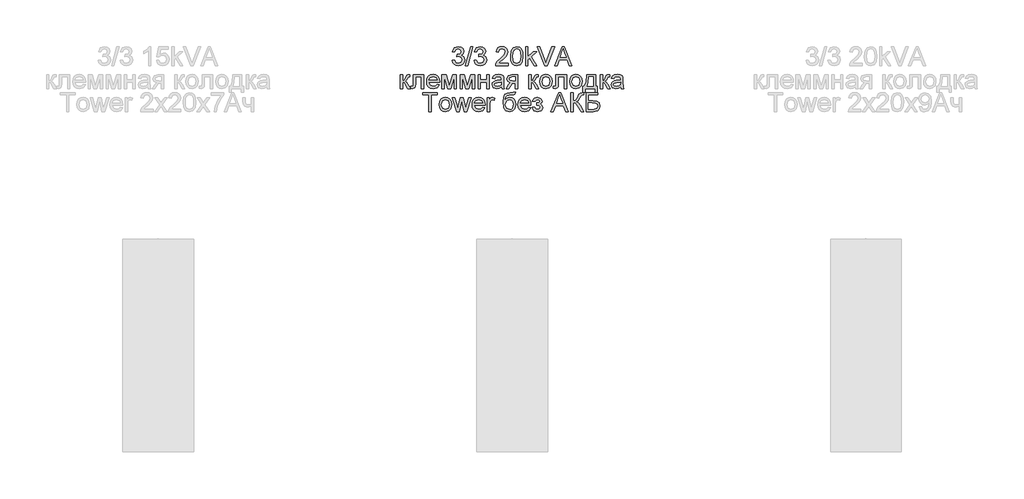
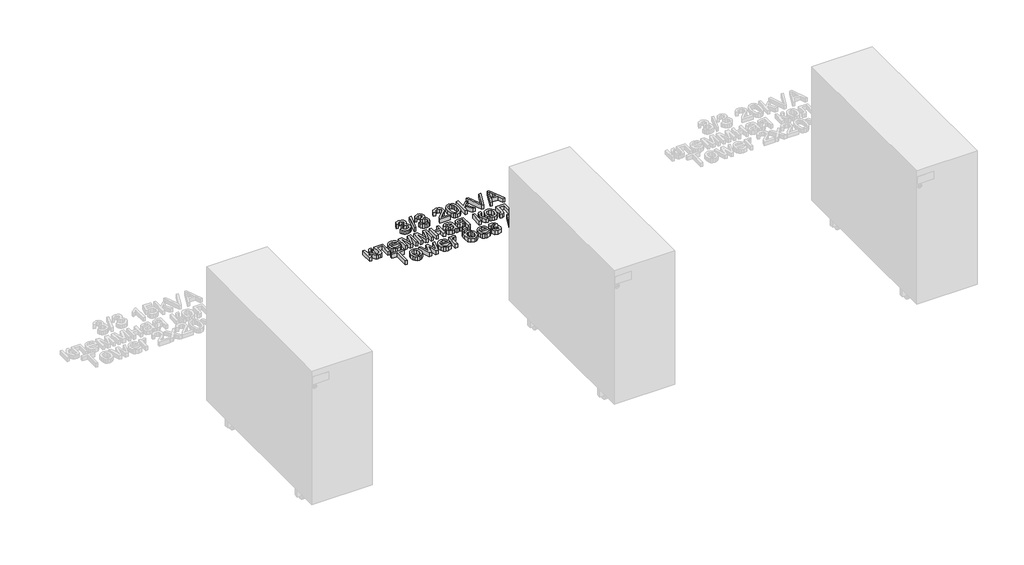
# One storey, part 29 of 74: 1 proxy.
"""IFC4 building model written with IfcOpenShell, lengths in millimetres."""

from ifc_helpers import new_model, si_unit, origin, origin_with_axes, place, context, project, spatial, polyline, outline, extrude, element, save

model = new_model("IFC4")

# Units and contexts
model_context = context("Model", 3, world=origin())
ifc_project = project(units=[si_unit("LENGTHUNIT", "METRE", prefix="MILLI")], contexts=[model_context])

# Site, building, storey
site = spatial("IfcSite", under=ifc_project)
building = spatial("IfcBuilding", under=site)
storey = spatial("IfcBuildingStorey", under=building, Name="Этаж 01", Elevation=0.0)

# Proxy
placement = place(None, origin())
element("IfcBuildingElementProxy", 1, Name="80 мм Arial", ObjectType="80 мм Arial", at=placement, inside=storey, context=model_context, shape_type="SweptSolid", body=[
    extrude(outline(polyline([(16098.3137414, -18752.4422861), (16108.3593724, -18751.1865822), (16113.9021278, -18761.7619633), (16124.2714949, -18764.9993249), (16136.475367, -18760.5455002), (16141.0076732, -18749.5188505), (16136.5146077, -18739.129863), (16125.0955506, -18735.0193948), (16118.0518367, -18736.1181357), (16119.1701979, -18726.0725047), (16120.7790685, -18726.1902269), (16132.1785053, -18723.3060321), (16137.2405615, -18714.4376235), (16133.5715518, -18706.5796641), (16124.114532, -18703.4698349), (16114.5397899, -18706.6090946), (16109.6150762, -18716.0268737), (16099.5694452, -18714.7711698), (16107.7903816, -18699.0160102), (16123.7613652, -18693.4242039), (16135.8769456, -18696.1808663), (16144.3529468, -18703.7150896), (16147.2861926, -18713.8490123), (16144.5000996, -18723.1098284), (16136.2595429, -18729.7611348), (16147.2077111, -18736.6282654), (16151.0533042, -18749.6954339), (16149.1305076, -18759.4860001), (16143.3621179, -18767.6676956), (16134.6555774, -18773.2006408), (16123.9183282, -18775.0449559), (16114.2062435, -18773.470421), (16106.2992332, -18768.7468161), (16100.8006236, -18761.5216138), (16098.3137414, -18752.4422861)])), origin_with_axes(), (0.0, 0.0, 1.0), 20.0),
    extrude(outline(polyline([(16154.8204158, -18773.789252), (16177.4230856, -18693.4242039), (16186.487698, -18693.4242039), (16163.8850282, -18773.789252), (16154.8204158, -18773.789252)])), origin_with_axes(), (0.0, 0.0, 1.0), 20.0),
    extrude(outline(polyline([(16191.2358282, -18752.4422861), (16201.2814593, -18751.1865822), (16206.8242147, -18761.7619633), (16217.1935818, -18764.9993249), (16229.3974539, -18760.5455002), (16233.9297601, -18749.5188505), (16229.4366946, -18739.129863), (16218.0176375, -18735.0193948), (16210.9739236, -18736.1181357), (16212.0922848, -18726.0725047), (16213.7011554, -18726.1902269), (16225.1005922, -18723.3060321), (16230.1626484, -18714.4376235), (16226.4936387, -18706.5796641), (16217.0366188, -18703.4698349), (16207.4618768, -18706.6090946), (16202.5371631, -18716.0268737), (16192.4915321, -18714.7711698), (16200.7124684, -18699.0160102), (16216.6834521, -18693.4242039), (16228.7990325, -18696.1808663), (16237.2750337, -18703.7150896), (16240.2082794, -18713.8490123), (16237.4221865, -18723.1098284), (16229.1816298, -18729.7611348), (16240.129798, -18736.6282654), (16243.9753911, -18749.6954339), (16242.0525945, -18759.4860001), (16236.2842048, -18767.6676956), (16227.5776643, -18773.2006408), (16216.8404151, -18775.0449559), (16207.1283304, -18773.470421), (16199.2213201, -18768.7468161), (16193.7227105, -18761.5216138), (16191.2358282, -18752.4422861)])), origin_with_axes(), (0.0, 0.0, 1.0), 20.0),
    extrude(outline(polyline([(16335.6417741, -18763.743621), (16335.6417741, -18773.789252), (16282.9022113, -18773.789252), (16283.9813318, -18766.8632603), (16290.0832678, -18756.1995876), (16302.6599269, -18744.5548961), (16320.0043367, -18727.8187179), (16324.3404392, -18716.4389015), (16320.2495914, -18707.2271364), (16309.5662983, -18703.4698349), (16298.4317365, -18707.1388447), (16294.2035461, -18717.2825776), (16284.1579151, -18716.0268737), (16286.5932939, -18706.3098839), (16291.8589116, -18699.212214), (16299.6800828, -18694.8712064), (16309.7821224, -18693.4242039), (16319.9577384, -18695.0330745), (16327.7641943, -18699.8596863), (16332.7306012, -18707.0701734), (16334.3860702, -18715.83067), (16332.6006163, -18725.3563611), (16326.6654534, -18735.2057884), (16312.2739098, -18748.9694801), (16300.71751, -18758.6325138), (16296.1852038, -18763.743621), (16335.6417741, -18763.743621)])), origin_with_axes(), (0.0, 0.0, 1.0), 20.0),
    extrude(outline(polyline([(16345.6874051, -18734.2542003), (16348.6402712, -18711.1315906), (16357.410578, -18697.7995471), (16372.0571865, -18693.4242039), (16383.7901696, -18696.0140932), (16391.8933837, -18703.4796451), (16396.6022732, -18715.3695912), (16398.4269679, -18734.2542003), (16395.5035323, -18757.2787081), (16386.7626561, -18770.6401821), (16372.0571865, -18775.0449559), (16361.619148, -18773.1319695), (16353.6925173, -18767.3930104), (16347.6886832, -18753.800997), (16345.6874051, -18734.2542003)]), holes=[polyline([(16355.7330361, -18734.2345799), (16356.9102585, -18750.0363379), (16360.4419257, -18759.1818843), (16372.0571865, -18764.9993249), (16383.6724474, -18759.1622639), (16387.2041145, -18750.0118124), (16388.3813369, -18734.2345799), (16387.2433553, -18718.7884412), (16383.8294104, -18709.5717709), (16378.5809606, -18704.9953189), (16371.9394643, -18703.4698349), (16360.5988886, -18708.8458171), (16356.9494992, -18718.6363833), (16355.7330361, -18734.2345799)])]), origin_with_axes(), (0.0, 0.0, 1.0), 20.0),
    extrude(outline(polyline([(16409.7283028, -18773.789252), (16409.7283028, -18693.4242039), (16419.7739338, -18693.4242039), (16419.7739338, -18736.608645), (16442.2981221, -18714.7711698), (16456.1893463, -18714.7711698), (16433.3904728, -18736.8833303), (16457.4450501, -18773.789252), (16445.712067, -18773.789252), (16426.1897958, -18743.8681831), (16419.7739338, -18750.0878413), (16419.7739338, -18773.789252), (16409.7283028, -18773.789252)])), origin_with_axes(), (0.0, 0.0, 1.0), 20.0),
    extrude(outline(polyline([(16532.2182919, -18773.789252), (16564.2976019, -18693.4242039), (16572.8520846, -18693.4242039), (16604.9313946, -18773.789252), (16594.3167727, -18773.789252), (16585.1148177, -18748.6751745), (16552.0152484, -18748.6751745), (16542.8329138, -18773.789252), (16532.2182919, -18773.789252)]), holes=[polyline([(16555.7038785, -18738.6295435), (16581.445808, -18738.6295435), (16574.2058903, -18718.8718278), (16568.5748432, -18703.4698349), (16563.5716481, -18717.145235), (16555.7038785, -18738.6295435)])]), origin_with_axes(), (0.0, 0.0, 1.0), 20.0),
    extrude(outline(polyline([(16491.2313326, -18773.789252), (16459.2501245, -18693.4242039), (16470.0020889, -18693.4242039), (16491.4079159, -18751.3239249), (16495.7440184, -18764.3714729), (16500.0212597, -18751.3239249), (16521.4859479, -18693.4242039), (16532.2379123, -18693.4242039), (16501.6105099, -18773.789252), (16491.2313326, -18773.789252)])), origin_with_axes(), (0.0, 0.0, 1.0), 20.0),
    extrude(outline(polyline([(15933.1886815, -18812.3510241), (15978.3940211, -18812.3510241), (15978.3940211, -18871.3102452), (15968.3483901, -18871.3102452), (15968.3483901, -18822.3966551), (15943.2343126, -18822.3966551), (15943.2343126, -18850.5518905), (15942.5574097, -18863.5405774), (15938.839349, -18869.0244717), (15930.0494219, -18871.3691063), (15921.8873467, -18870.8589766), (15921.8873467, -18861.3234753), (15926.3804121, -18861.3234753), (15930.9225285, -18860.7054335), (15932.737413, -18858.7433962), (15933.1886815, -18849.9828996), (15933.1886815, -18812.3510241)])), origin_with_axes(), (0.0, 0.0, 1.0), 20.0),
    extrude(outline(polyline([(15879.1934148, -18812.3510241), (15889.2390459, -18812.3510241), (15889.2390459, -18837.4651016), (15895.9688338, -18835.6600273), (15901.4821587, -18825.1435073), (15906.0635158, -18816.0690848), (15910.1053126, -18813.1162186), (15917.4531423, -18812.3510241), (15919.3759389, -18812.3510241), (15919.3759389, -18822.4555162), (15916.6683274, -18822.3966551), (15911.7632341, -18823.4561553), (15908.3100485, -18830.068221), (15904.2584414, -18837.219847), (15898.5783434, -18840.7220836), (15904.9157239, -18844.6314429), (15911.1353822, -18852.8670945), (15921.8873467, -18871.3691063), (15910.4682895, -18871.3691063), (15899.9321492, -18853.259502), (15894.6346485, -18845.5977463), (15889.2390459, -18843.743621), (15889.2390459, -18871.3691063), (15879.1934148, -18871.3691063), (15879.1934148, -18812.3510241)])), origin_with_axes(), (0.0, 0.0, 1.0), 20.0),
    extrude(outline(polyline([(16034.7829733, -18853.789252), (16044.6324006, -18855.0449559), (16035.4206355, -18868.0140225), (16018.2626192, -18872.6248102), (16006.4756801, -18870.6357949), (15997.4061626, -18864.6687489), (15991.6230577, -18855.1111747), (15989.695356, -18842.3505745), (15991.642678, -18829.1607787), (15997.4846441, -18819.2966362), (16006.4315342, -18813.1456492), (16017.6936284, -18811.0953202), (16028.6050084, -18813.1407441), (16037.3238116, -18819.2770158), (16043.0406979, -18829.121538), (16044.9463266, -18842.2917134), (16044.8874655, -18844.9993249), (15999.740987, -18844.9993249), (16005.5191869, -18858.046873), (16018.4588229, -18862.5791792), (16028.3082502, -18860.4797992), (16034.7829733, -18853.789252)]), holes=[polyline([(15999.740987, -18834.9536939), (16034.9006956, -18834.9536939), (16030.8785191, -18825.8498408), (16017.6543876, -18821.1409512), (16005.2837424, -18824.8982527), (15999.740987, -18834.9536939)])]), origin_with_axes(), (0.0, 0.0, 1.0), 20.0),
    extrude(outline(polyline([(16054.9919576, -18812.3510241), (16072.2775063, -18812.3510241), (16085.5997396, -18859.5968825), (16099.9618527, -18812.3510241), (16116.5214476, -18812.3510241), (16116.5214476, -18871.3691063), (16106.4758166, -18871.3691063), (16106.4758166, -18823.8485627), (16092.035222, -18871.3691063), (16078.8503313, -18871.3691063), (16065.0375886, -18821.5725994), (16065.0375886, -18871.3691063), (16054.9919576, -18871.3691063), (16054.9919576, -18812.3510241)])), origin_with_axes(), (0.0, 0.0, 1.0), 20.0),
    extrude(outline(polyline([(16131.5898941, -18812.3510241), (16148.8754428, -18812.3510241), (16162.1976761, -18859.5968825), (16176.5597892, -18812.3510241), (16193.1193841, -18812.3510241), (16193.1193841, -18871.3691063), (16183.073753, -18871.3691063), (16183.073753, -18823.8485627), (16168.6331585, -18871.3691063), (16155.4482678, -18871.3691063), (16141.6355251, -18821.5725994), (16141.6355251, -18871.3691063), (16131.5898941, -18871.3691063), (16131.5898941, -18812.3510241)])), origin_with_axes(), (0.0, 0.0, 1.0), 20.0),
    extrude(outline(polyline([(16208.1878306, -18812.3510241), (16218.2334616, -18812.3510241), (16218.2334616, -18834.9536939), (16244.603243, -18834.9536939), (16244.603243, -18812.3510241), (16254.648874, -18812.3510241), (16254.648874, -18871.3691063), (16244.603243, -18871.3691063), (16244.603243, -18844.9993249), (16218.2334616, -18844.9993249), (16218.2334616, -18871.3691063), (16208.1878306, -18871.3691063), (16208.1878306, -18812.3510241)])), origin_with_axes(), (0.0, 0.0, 1.0), 20.0),
    extrude(outline(polyline([(16307.3884369, -18863.834883), (16297.6469216, -18870.6431525), (16286.885147, -18872.6248102), (16272.2973996, -18867.8570595), (16267.2059128, -18855.6728078), (16269.1287094, -18847.7265567), (16274.1809554, -18841.9581671), (16281.2148592, -18838.6619444), (16289.9066844, -18837.1511757), (16307.3295757, -18833.69799), (16307.3884369, -18831.4612675), (16304.6219643, -18824.0447664), (16293.5168331, -18821.1409512), (16283.3534798, -18823.073558), (16278.5072477, -18829.9308784), (16268.4616167, -18828.6751745), (16272.8075293, -18818.864988), (16281.5582157, -18813.1162186), (16294.8117777, -18811.0953202), (16306.9862192, -18812.8807742), (16313.86316, -18817.3640294), (16316.9435585, -18824.1821091), (16317.4340679, -18832.9720362), (16317.4340679, -18845.4702138), (16317.9441976, -18862.9225357), (16319.9454756, -18871.3691063), (16309.8998446, -18871.3691063), (16307.3884369, -18863.834883)]), holes=[polyline([(16307.3884369, -18843.743621), (16291.1820087, -18846.8240196), (16282.5392344, -18848.4525105), (16278.6249699, -18851.1012609), (16277.2515438, -18854.9664744), (16280.2436507, -18860.4013178), (16289.0237677, -18862.5791792), (16299.1871209, -18860.1756835), (16305.7403255, -18854.3582428), (16307.3295757, -18846.5885751), (16307.3884369, -18843.743621)])]), origin_with_axes(), (0.0, 0.0, 1.0), 20.0),
    extrude(outline(polyline([(16376.4521501, -18812.3510241), (16376.4521501, -18871.3691063), (16366.4065191, -18871.3691063), (16366.4065191, -18848.7664365), (16360.932435, -18848.7664365), (16353.4766932, -18850.0417608), (16346.47222, -18858.6158638), (16338.4671078, -18871.3691063), (16326.8518469, -18871.3691063), (16336.9367187, -18855.2411596), (16345.4912014, -18846.8828807), (16333.797459, -18840.7809447), (16329.9911066, -18829.4011283), (16335.1905055, -18817.079534), (16350.2393317, -18812.3510241), (16376.4521501, -18812.3510241)]), holes=[polyline([(16366.4065191, -18822.3966551), (16353.1627672, -18822.3966551), (16342.4402334, -18824.7216693), (16340.0367377, -18830.1663228), (16343.578215, -18836.6508561), (16356.1254436, -18838.7208055), (16366.4065191, -18838.7208055), (16366.4065191, -18822.3966551)])]), origin_with_axes(), (0.0, 0.0, 1.0), 20.0),
    extrude(outline(polyline([(16422.9131935, -18812.3510241), (16432.9588245, -18812.3510241), (16432.9588245, -18837.4651016), (16439.6886125, -18835.6600273), (16445.2019373, -18825.1435073), (16449.7832945, -18816.0690848), (16453.8250913, -18813.1162186), (16461.172921, -18812.3510241), (16463.0957176, -18812.3510241), (16463.0957176, -18822.4555162), (16460.3881061, -18822.3966551), (16455.4830128, -18823.4561553), (16452.0298272, -18830.068221), (16447.9782201, -18837.219847), (16442.2981221, -18840.7220836), (16448.6355026, -18844.6314429), (16454.8551609, -18852.8670945), (16465.6071253, -18871.3691063), (16454.1880682, -18871.3691063), (16443.6519279, -18853.259502), (16438.3544271, -18845.5977463), (16432.9588245, -18843.743621), (16432.9588245, -18871.3691063), (16422.9131935, -18871.3691063), (16422.9131935, -18812.3510241)])), origin_with_axes(), (0.0, 0.0, 1.0), 20.0),
    extrude(outline(polyline([(16469.374237, -18841.8600652), (16471.5471933, -18827.6303896), (16478.0660622, -18817.6289044), (16486.1202254, -18812.7287163), (16495.7636388, -18811.0953202), (16506.3169469, -18813.0843355), (16514.7463497, -18819.0513815), (16520.2719373, -18828.5255691), (16522.1137998, -18841.0360095), (16518.8568179, -18858.9101694), (16509.3703675, -18869.0244717), (16495.7636388, -18872.6248102), (16485.0827982, -18870.6431525), (16476.6632056, -18864.6981795), (16471.1964791, -18855.0253355), (16469.374237, -18841.8600652)]), holes=[polyline([(16479.419868, -18841.8404448), (16484.0698964, -18857.4092109), (16495.7636388, -18862.5791792), (16507.4181404, -18857.3797803), (16512.0681688, -18841.5265189), (16507.3887098, -18826.3109195), (16495.7636388, -18821.1409512), (16484.0698964, -18826.2912992), (16479.419868, -18841.8404448)])]), origin_with_axes(), (0.0, 0.0, 1.0), 20.0),
    extrude(outline(polyline([(16538.4379502, -18812.3510241), (16583.6432898, -18812.3510241), (16583.6432898, -18871.3102452), (16573.5976588, -18871.3102452), (16573.5976588, -18822.3966551), (16548.4835812, -18822.3966551), (16548.4835812, -18850.5518905), (16547.8066783, -18863.5405774), (16544.0886176, -18869.0244717), (16535.2986905, -18871.3691063), (16527.1366153, -18870.8589766), (16527.1366153, -18861.3234753), (16531.6296807, -18861.3234753), (16536.1717971, -18860.7054335), (16537.9866816, -18858.7433962), (16538.4379502, -18849.9828996), (16538.4379502, -18812.3510241)])), origin_with_axes(), (0.0, 0.0, 1.0), 20.0),
    extrude(outline(polyline([(16596.2003285, -18841.8600652), (16598.3732849, -18827.6303896), (16604.8921538, -18817.6289044), (16612.946317, -18812.7287163), (16622.5897303, -18811.0953202), (16633.1430385, -18813.0843355), (16641.5724413, -18819.0513815), (16647.0980288, -18828.5255691), (16648.9398914, -18841.0360095), (16645.6829094, -18858.9101694), (16636.1964591, -18869.0244717), (16622.5897303, -18872.6248102), (16611.9088897, -18870.6431525), (16603.4892971, -18864.6981795), (16598.0225707, -18855.0253355), (16596.2003285, -18841.8600652)]), holes=[polyline([(16606.2459596, -18841.8404448), (16610.895988, -18857.4092109), (16622.5897303, -18862.5791792), (16634.2442319, -18857.3797803), (16638.8942603, -18841.5265189), (16634.2148014, -18826.3109195), (16622.5897303, -18821.1409512), (16610.895988, -18826.2912992), (16606.2459596, -18841.8404448)])]), origin_with_axes(), (0.0, 0.0, 1.0), 20.0),
    extrude(outline(polyline([(16669.0311534, -18812.3510241), (16706.7022697, -18812.3510241), (16706.7022697, -18861.3234753), (16714.236493, -18861.3234753), (16714.236493, -18887.6932567), (16704.1908619, -18887.6932567), (16704.1908619, -18871.3691063), (16662.752634, -18871.3691063), (16662.752634, -18887.6932567), (16652.707003, -18887.6932567), (16652.707003, -18861.3234753), (16658.9855224, -18861.3234753), (16666.7453799, -18842.164181), (16669.0311534, -18812.3510241)]), holes=[polyline([(16677.8210805, -18822.3966551), (16675.4666358, -18845.2838203), (16670.2868573, -18861.3234753), (16696.6566387, -18861.3234753), (16696.6566387, -18822.3966551), (16677.8210805, -18822.3966551)])]), origin_with_axes(), (0.0, 0.0, 1.0), 20.0),
    extrude(outline(polyline([(16725.5378279, -18812.3510241), (16735.5834589, -18812.3510241), (16735.5834589, -18837.4651016), (16742.3132468, -18835.6600273), (16747.8265717, -18825.1435073), (16752.4079288, -18816.0690848), (16756.4497256, -18813.1162186), (16763.7975554, -18812.3510241), (16765.7203519, -18812.3510241), (16765.7203519, -18822.4555162), (16763.0127404, -18822.3966551), (16758.1076472, -18823.4561553), (16754.6544615, -18830.068221), (16750.6028545, -18837.219847), (16744.9227565, -18840.7220836), (16751.260137, -18844.6314429), (16757.4797952, -18852.8670945), (16768.2317597, -18871.3691063), (16756.8127025, -18871.3691063), (16746.2765622, -18853.259502), (16740.9790615, -18845.5977463), (16735.5834589, -18843.743621), (16735.5834589, -18871.3691063), (16725.5378279, -18871.3691063), (16725.5378279, -18812.3510241)])), origin_with_axes(), (0.0, 0.0, 1.0), 20.0),
    extrude(outline(polyline([(16812.1813954, -18863.834883), (16802.4398801, -18870.6431525), (16791.6781055, -18872.6248102), (16777.0903581, -18867.8570595), (16771.9988713, -18855.6728078), (16773.9216679, -18847.7265567), (16778.9739139, -18841.9581671), (16786.0078177, -18838.6619444), (16794.6996429, -18837.1511757), (16812.1225342, -18833.69799), (16812.1813954, -18831.4612675), (16809.4149228, -18824.0447664), (16798.3097916, -18821.1409512), (16788.1464383, -18823.073558), (16783.3002062, -18829.9308784), (16773.2545752, -18828.6751745), (16777.6004878, -18818.864988), (16786.3511742, -18813.1162186), (16799.6047362, -18811.0953202), (16811.7791777, -18812.8807742), (16818.6561185, -18817.3640294), (16821.736517, -18824.1821091), (16822.2270264, -18832.9720362), (16822.2270264, -18845.4702138), (16822.7371561, -18862.9225357), (16824.7384341, -18871.3691063), (16814.6928031, -18871.3691063), (16812.1813954, -18863.834883)]), holes=[polyline([(16812.1813954, -18843.743621), (16795.9749672, -18846.8240196), (16787.3321929, -18848.4525105), (16783.4179284, -18851.1012609), (16782.0445023, -18854.9664744), (16785.0366092, -18860.4013178), (16793.8167262, -18862.5791792), (16803.9800794, -18860.1756835), (16810.533284, -18854.3582428), (16812.1225342, -18846.5885751), (16812.1813954, -18843.743621)])]), origin_with_axes(), (0.0, 0.0, 1.0), 20.0),
    extrude(outline(polyline([(15999.1131351, -18968.9489606), (15999.1131351, -18898.6295435), (15972.7433537, -18898.6295435), (15972.7433537, -18888.5839125), (16035.5285475, -18888.5839125), (16035.5285475, -18898.6295435), (16009.1587661, -18898.6295435), (16009.1587661, -18968.9489606), (15999.1131351, -18968.9489606)])), origin_with_axes(), (0.0, 0.0, 1.0), 20.0),
    extrude(outline(polyline([(16043.0627708, -18939.4399195), (16045.2357271, -18925.2102439), (16051.754596, -18915.2087587), (16059.8087592, -18910.3085705), (16069.4521726, -18908.6751745), (16080.0054807, -18910.6641898), (16088.4348835, -18916.6312358), (16093.9604711, -18926.1054234), (16095.8023336, -18938.6158638), (16092.5453517, -18956.4900237), (16083.0589013, -18966.604326), (16069.4521726, -18970.2046645), (16058.771332, -18968.2230068), (16050.3517394, -18962.2780337), (16044.8850129, -18952.6051898), (16043.0627708, -18939.4399195)]), holes=[polyline([(16053.1084018, -18939.4202991), (16057.7584302, -18954.9890651), (16069.4521726, -18960.1590334), (16081.1066742, -18954.9596346), (16085.7567026, -18939.1063731), (16081.0772436, -18923.8907738), (16069.4521726, -18918.7208055), (16057.7584302, -18923.8711534), (16053.1084018, -18939.4202991)])]), origin_with_axes(), (0.0, 0.0, 1.0), 20.0),
    extrude(outline(polyline([(16116.8942347, -18968.9489606), (16098.9415933, -18909.9308784), (16109.3796318, -18909.9308784), (16119.5626054, -18944.3646331), (16122.6037632, -18956.666607), (16125.0955506, -18944.8159017), (16133.1987647, -18909.9308784), (16145.1671923, -18909.9308784), (16153.2311656, -18944.7177998), (16155.4482678, -18955.4501439), (16158.6267682, -18944.1291886), (16168.8293622, -18909.9308784), (16179.3066414, -18909.9308784), (16161.2166574, -18968.9489606), (16149.0716465, -18968.9489606), (16141.3608399, -18934.3386225), (16139.1241174, -18923.5474173), (16129.1765882, -18968.9489606), (16116.8942347, -18968.9489606)])), origin_with_axes(), (0.0, 0.0, 1.0), 20.0),
    extrude(outline(polyline([(16227.5335184, -18951.3691063), (16237.3829457, -18952.6248102), (16228.1711806, -18965.5938768), (16211.0131643, -18970.2046645), (16199.2262252, -18968.2156491), (16190.1567077, -18962.2486032), (16184.3736028, -18952.6910289), (16182.4459011, -18939.9304288), (16184.3932231, -18926.740633), (16190.2351892, -18916.8764904), (16199.1820793, -18910.7255035), (16210.4441735, -18908.6751745), (16221.3555535, -18910.7205984), (16230.0743567, -18916.8568701), (16235.791243, -18926.7013923), (16237.6968717, -18939.8715677), (16237.6380106, -18942.5791792), (16192.4915321, -18942.5791792), (16198.269732, -18955.6267273), (16211.209368, -18960.1590334), (16221.0587953, -18958.0596535), (16227.5335184, -18951.3691063)]), holes=[polyline([(16192.4915321, -18932.5335481), (16227.6512407, -18932.5335481), (16223.6290642, -18923.429695), (16210.4049327, -18918.7208055), (16198.0342875, -18922.4781069), (16192.4915321, -18932.5335481)])]), origin_with_axes(), (0.0, 0.0, 1.0), 20.0),
    extrude(outline(polyline([(16247.7425027, -18968.9489606), (16247.7425027, -18909.9308784), (16256.5324298, -18909.9308784), (16256.5324298, -18918.6619444), (16262.7717085, -18910.6175914), (16269.0502279, -18908.6751745), (16279.1350996, -18911.7751934), (16275.7800158, -18920.7809447), (16268.7166815, -18918.7208055), (16263.0365835, -18920.7024632), (16259.4166247, -18926.1961676), (16257.7881337, -18937.9291507), (16257.7881337, -18968.9489606), (16247.7425027, -18968.9489606)])), origin_with_axes(), (0.0, 0.0, 1.0), 20.0),
    extrude(outline(polyline([(16358.2444439, -18887.3282086), (16367.034371, -18887.3282086), (16364.4444818, -18895.1665476), (16359.3235644, -18898.0016915), (16347.0215905, -18898.6295435), (16330.4521854, -18900.9447475), (16324.0951845, -18908.3612485), (16321.9467537, -18921.4872781), (16330.6483891, -18911.8732953), (16341.8614324, -18908.6751745), (16352.3141861, -18910.7083356), (16360.7950924, -18916.8078191), (16366.4163293, -18926.3752035), (16368.2900749, -18938.8120675), (16364.5720142, -18956.0976162), (16355.7526565, -18966.5258445), (16341.8614324, -18970.2046645), (16325.9983607, -18965.4663444), (16317.3163456, -18953.3409538), (16314.2948082, -18927.6088345), (16316.2004369, -18908.3342705), (16321.9173231, -18896.5792145), (16331.5877145, -18890.582738), (16345.3538588, -18888.5839125), (16356.5374714, -18888.3582782), (16358.2444439, -18887.3282086)]), holes=[polyline([(16358.2444439, -18938.4981416), (16353.888721, -18924.2635609), (16348.6402712, -18920.1064944), (16341.6063675, -18918.7208055), (16334.2732531, -18920.1849758), (16328.8335046, -18924.5774869), (16324.3404392, -18940.2247344), (16329.3043936, -18955.0283059), (16341.5475064, -18960.1590334), (16348.2821994, -18958.6752427), (16353.6140358, -18954.2238706), (16358.2444439, -18938.4981416)])]), origin_with_axes(), (0.0, 0.0, 1.0), 20.0),
    extrude(outline(polyline([(16422.1676194, -18951.3691063), (16432.0170466, -18952.6248102), (16422.8052815, -18965.5938768), (16405.6472652, -18970.2046645), (16393.8603261, -18968.2156491), (16384.7908086, -18962.2486032), (16379.0077037, -18952.6910289), (16377.080002, -18939.9304288), (16379.027324, -18926.740633), (16384.8692901, -18916.8764904), (16393.8161803, -18910.7255035), (16405.0782744, -18908.6751745), (16415.9896544, -18910.7205984), (16424.7084577, -18916.8568701), (16430.4253439, -18926.7013923), (16432.3309726, -18939.8715677), (16432.2721115, -18942.5791792), (16387.125633, -18942.5791792), (16392.9038329, -18955.6267273), (16405.843469, -18960.1590334), (16415.6928962, -18958.0596535), (16422.1676194, -18951.3691063)]), holes=[polyline([(16387.125633, -18932.5335481), (16422.2853416, -18932.5335481), (16418.2631651, -18923.429695), (16405.0390337, -18918.7208055), (16392.6683884, -18922.4781069), (16387.125633, -18932.5335481)])]), origin_with_axes(), (0.0, 0.0, 1.0), 20.0),
    extrude(outline(polyline([(16456.1893463, -18942.5791792), (16456.1893463, -18932.5335481), (16464.115977, -18932.1411407), (16468.1185331, -18930.051571), (16470.0020889, -18925.6860379), (16467.480871, -18920.6141715), (16460.9767173, -18918.7208055), (16454.2567395, -18920.6043613), (16449.9108269, -18926.2550288), (16438.609492, -18924.9993249), (16446.1633356, -18912.7562121), (16459.9564579, -18908.6751745), (16474.7109784, -18913.6489391), (16480.0477199, -18925.529075), (16478.1494488, -18931.7683536), (16472.4546355, -18936.5949654), (16479.0961318, -18942.8538644), (16481.3034238, -18951.8596156), (16479.9030197, -18959.2540437), (16475.7018073, -18965.1131776), (16460.0349394, -18970.2046645), (16444.5838956, -18965.4957749), (16437.3537881, -18951.3691063), (16448.655123, -18950.1134024), (16453.1874292, -18957.5299034), (16460.9963377, -18960.1590334), (16468.3343572, -18957.6378155), (16471.2577928, -18951.1925229), (16469.4429083, -18945.9146426), (16465.5776948, -18943.0893089), (16458.1513836, -18942.520318), (16456.1893463, -18942.5791792)])), origin_with_axes(), (0.0, 0.0, 1.0), 20.0),
    extrude(outline(polyline([(16517.1498454, -18968.9489606), (16549.2291554, -18888.5839125), (16557.7836381, -18888.5839125), (16589.862948, -18968.9489606), (16579.2483262, -18968.9489606), (16570.0463712, -18943.834883), (16536.9468018, -18943.834883), (16527.7644672, -18968.9489606), (16517.1498454, -18968.9489606)]), holes=[polyline([(16540.635432, -18933.789252), (16566.3773615, -18933.789252), (16559.1374438, -18914.0315363), (16553.5063967, -18898.6295435), (16548.5032016, -18912.3049435), (16540.635432, -18933.789252)])]), origin_with_axes(), (0.0, 0.0, 1.0), 20.0),
    extrude(outline(polyline([(16600.5952921, -18888.5839125), (16610.6409231, -18888.5839125), (16610.6409231, -18923.743621), (16621.8735867, -18921.0850605), (16629.7119257, -18907.6352947), (16635.2546811, -18896.4026311), (16641.5332005, -18890.8402554), (16650.5095212, -18888.5839125), (16657.1019666, -18888.7016347), (16657.1019666, -18898.7472657), (16654.8848644, -18898.6884046), (16652.6677622, -18898.6295435), (16644.819613, -18901.0428494), (16638.8550196, -18911.382786), (16631.7426344, -18923.9790655), (16624.8068325, -18928.1385846), (16632.5617849, -18932.6807009), (16640.2088253, -18942.147531), (16657.1019666, -18968.9489606), (16645.447465, -18968.9489606), (16631.1638334, -18946.30705), (16621.1083922, -18934.4857753), (16610.6409231, -18931.2778443), (16610.6409231, -18968.9489606), (16600.5952921, -18968.9489606), (16600.5952921, -18888.5839125)])), origin_with_axes(), (0.0, 0.0, 1.0), 20.0),
    extrude(outline(polyline([(16665.8918937, -18888.5839125), (16716.1200488, -18888.5839125), (16716.1200488, -18898.6295435), (16675.9375247, -18898.6295435), (16675.9375247, -18922.4879171), (16694.7534625, -18922.4879171), (16711.3326777, -18924.5284359), (16721.2017254, -18932.2392426), (16724.9099759, -18945.4241333), (16722.2710357, -18956.8726209), (16714.3934559, -18965.5742564), (16696.5585368, -18968.9489606), (16665.8918937, -18968.9489606), (16665.8918937, -18888.5839125)]), holes=[polyline([(16675.9375247, -18958.9033296), (16697.461074, -18958.9033296), (16710.5086221, -18955.5874865), (16714.8643449, -18945.6399574), (16712.3725575, -18937.7721878), (16705.4367556, -18933.5734279), (16690.2996378, -18932.5335481), (16675.9375247, -18932.5335481), (16675.9375247, -18958.9033296)])]), origin_with_axes(), (0.0, 0.0, 1.0), 20.0),
])

save(model, "model.ifc")
